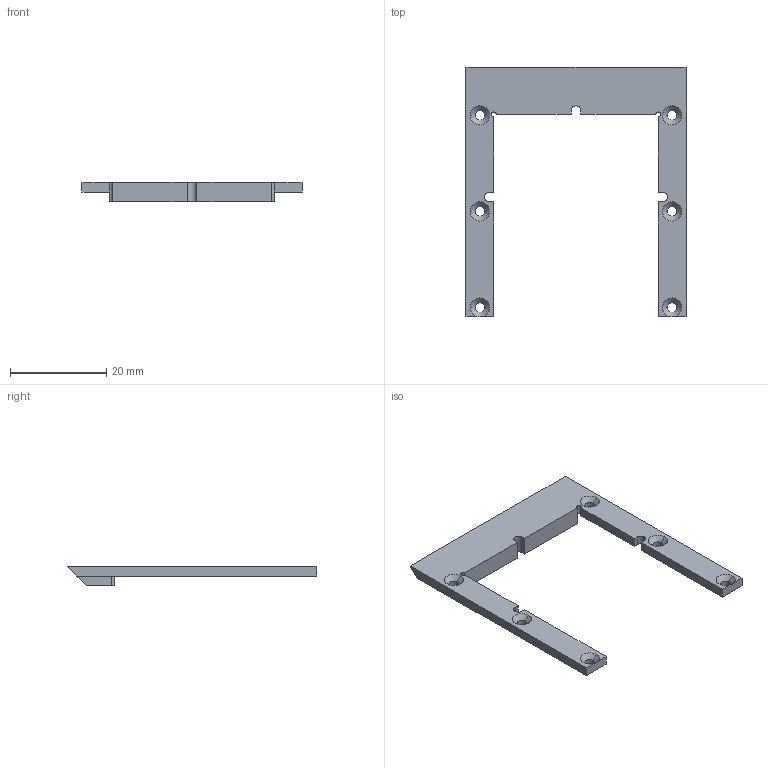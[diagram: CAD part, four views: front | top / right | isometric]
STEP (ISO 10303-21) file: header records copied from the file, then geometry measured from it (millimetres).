
FILE_DESCRIPTION (( 'STEP AP214' ), '1' );
FILE_NAME ('SC41.STEP', '2016-02-27T09:38:29', ( '' ), ( '' ), 'SwSTEP 2.0', 'SolidWorks 2012', '' );
FILE_SCHEMA (( 'AUTOMOTIVE_DESIGN' ));
Length unit declared in the file: millimetre
Products named in the file (1): SC41
Bounding box: 45.8 x 51.9 x 4 mm (x, y, z)
Volume: 2155.8 mm3; surface area: 2528.2 mm2
Topology: 1 solids, 1 shells, 56 faces, 154 edges, 98 vertices
Faces by surface type: plane 25, cylinder 19, cone 12
Entity records: 1852 total; most frequent: CARTESIAN_POINT 327, DIRECTION 320, ORIENTED_EDGE 308, EDGE_CURVE 154, AXIS2_PLACEMENT_3D 111, VECTOR 98, LINE 98, VERTEX_POINT 98
